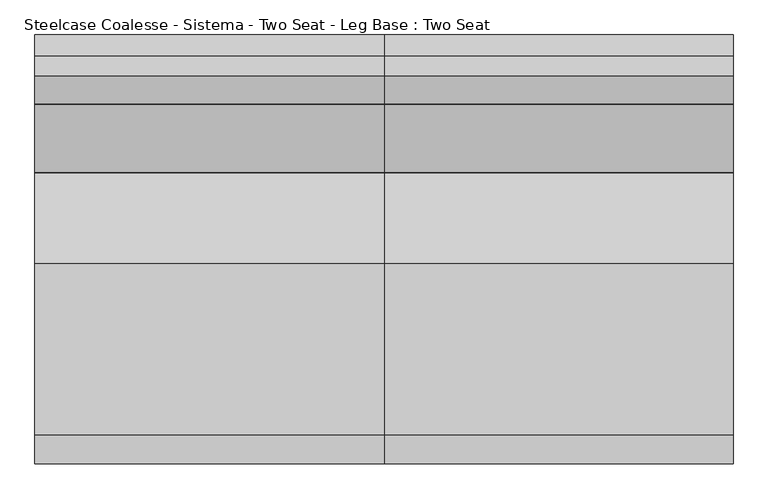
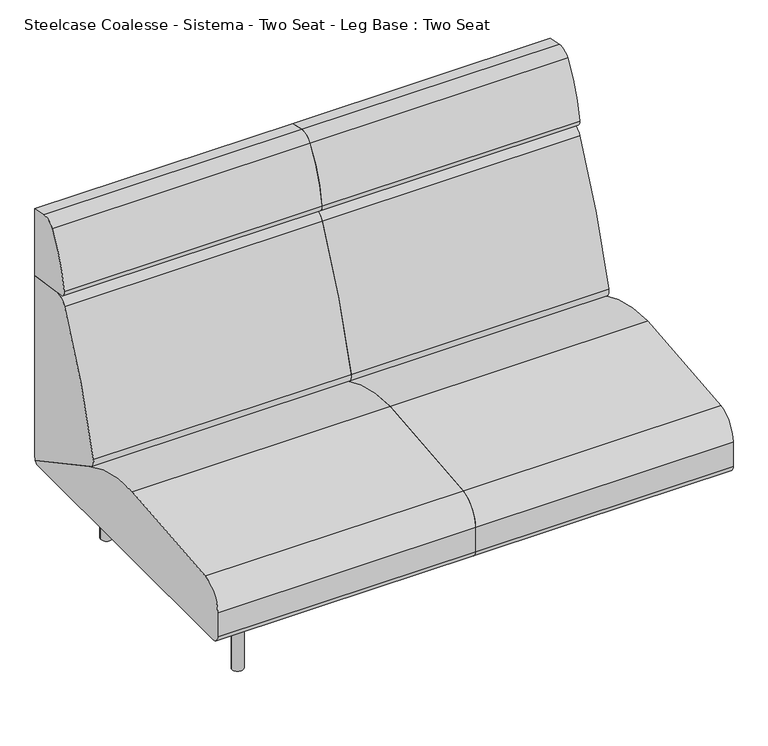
"""IFC4 building model written with IfcOpenShell, lengths in millimetres: furniture geometry, Steelcase Coalesse - Sistema - Two Seat - Leg Base : Two Seat."""

from ifc_helpers import new_model, si_unit, point, frame, frame_2d, origin, origin_with_axes, place, context, project, spatial, polyline, circle_curve, trimmed, segment, composite_curve, outline, extrude, source, transform, mapped, element, save


def steelcase_coalesse_sistema_two_seat_leg_base_two_seat_62bd9cc4(model_context):
    return source(origin(), model_context, "Body", "SweptSolid", [
        extrude(outline(composite_curve([segment(polyline([(459.4795619, 985.4592709), (459.4795619, 780.845009), (327.9700683, 799.327463)]), True, "CONTINUOUS"), segment(trimmed(circle_curve(frame_2d((330.6213159, 818.1920697)), 19.05), [point((327.9700683, 799.327463))], [point((311.7521971, 820.8110119))], False, "CARTESIAN"), True, "CONTINUOUS"), segment(trimmed(circle_curve(frame_2d((679.5815991, 769.7580741)), 371.3554516), [point((311.7521971, 820.8110119))], [point((372.1246101, 978.0249014))], False, "CARTESIAN"), True, "CONTINUOUS"), segment(trimmed(circle_curve(frame_2d((405.8944569, 955.1497055)), 40.7881985), [point((372.1246101, 978.0249014))], [point((414.3748002, 995.046584))], False, "CARTESIAN"), True, "CONTINUOUS"), segment(polyline([(414.3748002, 995.046584), (459.4795619, 985.4592709)]), True, "CONTINUOUS")], self_intersect=False)), frame((-374.8034773, 0.0, 0.0), z_axis=(1.0, 0.0, 0.0), x_axis=(0.0, 1.0, 0.0)), (0.0, 0.0, 1.0), 749.3),
        extrude(outline(composite_curve([segment(polyline([(459.4795619, 780.845009), (459.4795619, 228.1929806)]), True, "CONTINUOUS"), segment(trimmed(circle_curve(frame_2d((191.495971, 228.1929806)), 267.983591), [point((459.4795619, 228.1929806))], [point((458.9860775, 211.937276))], False, "CARTESIAN"), True, "CONTINUOUS"), segment(polyline([(458.9860775, 211.937276), (177.4990556, 364.1028799)]), True, "CONTINUOUS"), segment(trimmed(circle_curve(frame_2d((189.5778307, 386.4470781)), 25.4), [point((177.4990556, 364.1028799))], [point((164.9600055, 392.7018911))], False, "CARTESIAN"), True, "CONTINUOUS"), segment(trimmed(circle_curve(frame_2d((1918.112812, -52.7331923)), 1808.8552115), [point((164.9600055, 392.7018911))], [point((310.2880264, 776.0349508))], False, "CARTESIAN"), True, "CONTINUOUS"), segment(trimmed(circle_curve(frame_2d((344.1537133, 758.5785695)), 38.1), [point((310.2880264, 776.0349508))], [point((349.4562085, 796.3077829))], False, "CARTESIAN"), True, "CONTINUOUS"), segment(polyline([(349.4562085, 796.3077829), (459.4795619, 780.845009)]), True, "CONTINUOUS")], self_intersect=False)), frame((-374.8034773, 0.0, 0.0), z_axis=(1.0, 0.0, 0.0), x_axis=(0.0, 1.0, 0.0)), (0.0, 0.0, 1.0), 749.3),
        extrude(outline(composite_curve([segment(trimmed(circle_curve(frame_2d((-438.9184381, 226.822)), 22.352), [point((-438.9184381, 204.47))], [point((-461.2704381, 226.822))], False, "CARTESIAN"), True, "CONTINUOUS"), segment(polyline([(-461.2704381, 226.822), (-461.2704381, 301.4421993)]), True, "CONTINUOUS"), segment(trimmed(circle_curve(frame_2d((-385.0704381, 301.4421993)), 76.2), [point((-461.2704381, 301.4421993))], [point((-398.9277015, 376.3716077))], False, "CARTESIAN"), True, "CONTINUOUS"), segment(trimmed(circle_curve(frame_2d((2.2103559, -1792.6740646)), 2205.8265729), [point((-398.9277015, 376.3716077))], [point((-31.1968175, 412.8995185))], False, "CARTESIAN"), True, "CONTINUOUS"), segment(trimmed(circle_curve(frame_2d((-24.5128424, -28.3829182)), 441.333054), [point((-31.1968175, 412.8995185))], [point((184.5757008, 360.2774035))], False, "CARTESIAN"), True, "CONTINUOUS"), segment(polyline([(184.5757008, 360.2774035), (458.9860775, 211.937276)]), True, "CONTINUOUS"), segment(trimmed(circle_curve(frame_2d((442.3266309, 226.7871991)), 22.3171991), [point((458.9860775, 211.937276))], [point((442.3266309, 204.47))], False, "CARTESIAN"), True, "CONTINUOUS"), segment(polyline([(442.3266309, 204.47), (-438.9184381, 204.47)]), True, "CONTINUOUS")], self_intersect=False)), frame((-374.8034773, 0.0, 0.0), z_axis=(1.0, 0.0, 0.0), x_axis=(0.0, 1.0, 0.0)), (0.0, 0.0, 1.0), 749.3),
        extrude(outline(composite_curve([segment(polyline([(459.4795619, 985.4592709), (459.4795619, 780.845009), (327.9700683, 799.327463)]), True, "CONTINUOUS"), segment(trimmed(circle_curve(frame_2d((330.6213159, 818.1920697)), 19.05), [point((327.9700683, 799.327463))], [point((311.7521971, 820.8110119))], False, "CARTESIAN"), True, "CONTINUOUS"), segment(trimmed(circle_curve(frame_2d((679.5815991, 769.7580741)), 371.3554516), [point((311.7521971, 820.8110119))], [point((372.1246101, 978.0249014))], False, "CARTESIAN"), True, "CONTINUOUS"), segment(trimmed(circle_curve(frame_2d((405.8944569, 955.1497055)), 40.7881985), [point((372.1246101, 978.0249014))], [point((414.3748002, 995.046584))], False, "CARTESIAN"), True, "CONTINUOUS"), segment(polyline([(414.3748002, 995.046584), (459.4795619, 985.4592709)]), True, "CONTINUOUS")], self_intersect=False)), frame((374.4965227, 0.0, 0.0), z_axis=(1.0, 0.0, 0.0), x_axis=(0.0, 1.0, 0.0)), (0.0, 0.0, 1.0), 749.3),
        extrude(outline(composite_curve([segment(polyline([(459.4795619, 780.845009), (459.4795619, 228.1929806)]), True, "CONTINUOUS"), segment(trimmed(circle_curve(frame_2d((191.495971, 228.1929806)), 267.983591), [point((459.4795619, 228.1929806))], [point((458.9860775, 211.937276))], False, "CARTESIAN"), True, "CONTINUOUS"), segment(polyline([(458.9860775, 211.937276), (177.4990556, 364.1028799)]), True, "CONTINUOUS"), segment(trimmed(circle_curve(frame_2d((189.5778307, 386.4470781)), 25.4), [point((177.4990556, 364.1028799))], [point((164.9600055, 392.7018911))], False, "CARTESIAN"), True, "CONTINUOUS"), segment(trimmed(circle_curve(frame_2d((1918.112812, -52.7331923)), 1808.8552115), [point((164.9600055, 392.7018911))], [point((310.2880264, 776.0349508))], False, "CARTESIAN"), True, "CONTINUOUS"), segment(trimmed(circle_curve(frame_2d((344.1537133, 758.5785695)), 38.1), [point((310.2880264, 776.0349508))], [point((349.4562085, 796.3077829))], False, "CARTESIAN"), True, "CONTINUOUS"), segment(polyline([(349.4562085, 796.3077829), (459.4795619, 780.845009)]), True, "CONTINUOUS")], self_intersect=False)), frame((374.4965227, 0.0, 0.0), z_axis=(1.0, 0.0, 0.0), x_axis=(0.0, 1.0, 0.0)), (0.0, 0.0, 1.0), 749.3),
        extrude(outline(composite_curve([segment(trimmed(circle_curve(frame_2d((-438.9184381, 226.822)), 22.352), [point((-438.9184381, 204.47))], [point((-461.2704381, 226.822))], False, "CARTESIAN"), True, "CONTINUOUS"), segment(polyline([(-461.2704381, 226.822), (-461.2704381, 301.4421993)]), True, "CONTINUOUS"), segment(trimmed(circle_curve(frame_2d((-385.0704381, 301.4421993)), 76.2), [point((-461.2704381, 301.4421993))], [point((-398.9277015, 376.3716077))], False, "CARTESIAN"), True, "CONTINUOUS"), segment(trimmed(circle_curve(frame_2d((2.2103559, -1792.6740646)), 2205.8265729), [point((-398.9277015, 376.3716077))], [point((-31.1968175, 412.8995185))], False, "CARTESIAN"), True, "CONTINUOUS"), segment(trimmed(circle_curve(frame_2d((-24.5128424, -28.3829182)), 441.333054), [point((-31.1968175, 412.8995185))], [point((184.5757008, 360.2774035))], False, "CARTESIAN"), True, "CONTINUOUS"), segment(polyline([(184.5757008, 360.2774035), (458.9860775, 211.937276)]), True, "CONTINUOUS"), segment(trimmed(circle_curve(frame_2d((442.3266309, 226.7871991)), 22.3171991), [point((458.9860775, 211.937276))], [point((442.3266309, 204.47))], False, "CARTESIAN"), True, "CONTINUOUS"), segment(polyline([(442.3266309, 204.47), (-438.9184381, 204.47)]), True, "CONTINUOUS")], self_intersect=False)), frame((374.4965227, 0.0, 0.0), z_axis=(1.0, 0.0, 0.0), x_axis=(0.0, 1.0, 0.0)), (0.0, 0.0, 1.0), 749.3),
        extrude(outline(composite_curve([segment(trimmed(circle_curve(frame_2d((-240.1834773, 335.9943389)), 6.096), [point((-246.2794773, 335.9943389))], [point((-234.0874773, 335.9943389))], False, "CARTESIAN"), True, "CONTINUOUS"), segment(trimmed(circle_curve(frame_2d((-240.1834773, 335.9943389)), 6.096), [point((-234.0874773, 335.9943389))], [point((-246.2794773, 335.9943389))], False, "CARTESIAN"), True, "CONTINUOUS")], self_intersect=False)), origin_with_axes(), (0.0, 0.0, 1.0), 4.3662291),
        extrude(outline(composite_curve([segment(trimmed(circle_curve(frame_2d((-240.1834773, -327.2630889)), 6.096), [point((-246.2794773, -327.2630889))], [point((-234.0874773, -327.2630889))], False, "CARTESIAN"), True, "CONTINUOUS"), segment(trimmed(circle_curve(frame_2d((-240.1834773, -327.2630889)), 6.096), [point((-234.0874773, -327.2630889))], [point((-246.2794773, -327.2630889))], False, "CARTESIAN"), True, "CONTINUOUS")], self_intersect=False)), origin_with_axes(), (0.0, 0.0, 1.0), 4.3662291),
        extrude(outline(composite_curve([segment(trimmed(circle_curve(frame_2d((157.0399209, -249.7153296)), 3.048), [point((157.0399209, -252.7633296))], [point((153.9919209, -249.7153296))], False, "CARTESIAN"), True, "CONTINUOUS"), segment(polyline([(153.9919209, -249.7153296), (153.9919209, -230.4582264)]), True, "CONTINUOUS"), segment(trimmed(circle_curve(frame_2d((157.1249936, -230.4582264)), 3.1330728), [point((153.9919209, -230.4582264))], [point((157.1249936, -227.3251537))], False, "CARTESIAN"), True, "CONTINUOUS"), segment(polyline([(157.1249936, -227.3251537), (201.7356243, -227.3251537)]), True, "CONTINUOUS"), segment(trimmed(circle_curve(frame_2d((201.7356243, -230.3731537)), 3.048), [point((201.7356243, -227.3251537))], [point((204.7836243, -230.3731537))], False, "CARTESIAN"), True, "CONTINUOUS"), segment(polyline([(204.7836243, -230.3731537), (204.7836243, -249.7153296)]), True, "CONTINUOUS"), segment(trimmed(circle_curve(frame_2d((201.7356243, -249.7153296)), 3.048), [point((204.7836243, -249.7153296))], [point((201.7356243, -252.7633296))], False, "CARTESIAN"), True, "CONTINUOUS"), segment(polyline([(201.7356243, -252.7633296), (157.0399209, -252.7633296)]), True, "CONTINUOUS")], self_intersect=False)), frame((0.0, 222.3519802, 0.0), z_axis=(0.0, 1.0, 0.0), x_axis=(0.0, 0.0, 1.0)), (0.0, 0.0, 1.0), 92.6273161),
        extrude(outline(composite_curve([segment(trimmed(circle_curve(frame_2d((157.0399209, -249.7153296)), 3.048), [point((157.0399209, -252.7633296))], [point((153.9919209, -249.7153296))], False, "CARTESIAN"), True, "CONTINUOUS"), segment(polyline([(153.9919209, -249.7153296), (153.9919209, -230.4582264)]), True, "CONTINUOUS"), segment(trimmed(circle_curve(frame_2d((157.1249936, -230.4582264)), 3.1330728), [point((153.9919209, -230.4582264))], [point((157.1249936, -227.3251537))], False, "CARTESIAN"), True, "CONTINUOUS"), segment(polyline([(157.1249936, -227.3251537), (201.7356243, -227.3251537)]), True, "CONTINUOUS"), segment(trimmed(circle_curve(frame_2d((201.7356243, -230.3731537)), 3.048), [point((201.7356243, -227.3251537))], [point((204.7836243, -230.3731537))], False, "CARTESIAN"), True, "CONTINUOUS"), segment(polyline([(204.7836243, -230.3731537), (204.7836243, -249.7153296)]), True, "CONTINUOUS"), segment(trimmed(circle_curve(frame_2d((201.7356243, -249.7153296)), 3.048), [point((204.7836243, -249.7153296))], [point((201.7356243, -252.7633296))], False, "CARTESIAN"), True, "CONTINUOUS"), segment(polyline([(201.7356243, -252.7633296), (157.0399209, -252.7633296)]), True, "CONTINUOUS")], self_intersect=False)), frame((0.0, -314.9792963, 0.0), z_axis=(0.0, 1.0, 0.0), x_axis=(0.0, 0.0, 1.0)), (0.0, 0.0, 1.0), 92.6273161),
        extrude(outline(composite_curve([segment(polyline([(179.3836606, -217.532949), (179.3836606, -262.2370459)]), True, "CONTINUOUS"), segment(trimmed(circle_curve(frame_2d((176.3356606, -262.2370459)), 3.048), [point((179.3836606, -262.2370459))], [point((176.3356606, -265.2850459))], False, "CARTESIAN"), True, "CONTINUOUS"), segment(polyline([(176.3356606, -265.2850459), (157.056462, -265.2850459)]), True, "CONTINUOUS"), segment(trimmed(circle_curve(frame_2d((157.056462, -262.2205047)), 3.0645412), [point((157.056462, -265.2850459))], [point((153.9919209, -262.2205047))], False, "CARTESIAN"), True, "CONTINUOUS"), segment(polyline([(153.9919209, -262.2205047), (153.9919209, -217.532949)]), True, "CONTINUOUS"), segment(trimmed(circle_curve(frame_2d((157.0399209, -217.532949)), 3.048), [point((153.9919209, -217.532949))], [point((157.0399209, -214.484949))], False, "CARTESIAN"), True, "CONTINUOUS"), segment(polyline([(157.0399209, -214.484949), (176.3356606, -214.484949)]), True, "CONTINUOUS"), segment(trimmed(circle_curve(frame_2d((176.3356606, -217.532949)), 3.048), [point((176.3356606, -214.484949))], [point((179.3836606, -217.532949))], False, "CARTESIAN"), True, "CONTINUOUS")], self_intersect=False)), frame((0.0, -222.3519802, 0.0), z_axis=(0.0, 1.0, 0.0), x_axis=(0.0, 0.0, 1.0)), (0.0, 0.0, 1.0), 444.7039604),
        extrude(outline(composite_curve([segment(trimmed(circle_curve(frame_2d((-240.1834773, 332.3095741)), 16.51), [point((-256.6934773, 332.3095741))], [point((-223.6734773, 332.3095741))], False, "CARTESIAN"), True, "CONTINUOUS"), segment(trimmed(circle_curve(frame_2d((-240.1834773, 332.3095741)), 16.51), [point((-223.6734773, 332.3095741))], [point((-256.6934773, 332.3095741))], False, "CARTESIAN"), True, "CONTINUOUS")], self_intersect=False)), frame((0.0, 0.0, 4.3662291), z_axis=(0.0, 0.0, 1.0), x_axis=(1.0, 0.0, 0.0)), (0.0, 0.0, 1.0), 200.1037709),
        extrude(outline(composite_curve([segment(trimmed(circle_curve(frame_2d((-239.7866023, -327.5470741)), 16.51), [point((-256.2966023, -327.5470741))], [point((-223.2766023, -327.5470741))], False, "CARTESIAN"), True, "CONTINUOUS"), segment(trimmed(circle_curve(frame_2d((-239.7866023, -327.5470741)), 16.51), [point((-223.2766023, -327.5470741))], [point((-256.2966023, -327.5470741))], False, "CARTESIAN"), True, "CONTINUOUS")], self_intersect=False)), frame((0.0, 0.0, 4.3662291), z_axis=(0.0, 0.0, 1.0), x_axis=(1.0, 0.0, 0.0)), (0.0, 0.0, 1.0), 200.1037709),
    ])


if __name__ == "__main__":
    model = new_model("IFC4")
    model_context = context("Model", 3, world=origin())
    ifc_project = project(units=[si_unit("LENGTHUNIT", "METRE", prefix="MILLI")], contexts=[model_context])
    site = spatial("IfcSite", under=ifc_project)
    building = spatial("IfcBuilding", under=site)
    placement = place(None, origin())
    steelcase_coalesse_sistema_two_seat_leg_base_two_seat_shape = steelcase_coalesse_sistema_two_seat_leg_base_two_seat_62bd9cc4(model_context)
    element("IfcFurniture", 1, ObjectType="Steelcase Coalesse - Sistema - Two Seat - Leg Base : Two Seat", at=placement, inside=building, context=model_context, shape_type="MappedRepresentation", body=[
        mapped(steelcase_coalesse_sistema_two_seat_leg_base_two_seat_shape, transform((0.0, 0.0, 0.0), x_axis=(1.0, 0.0, 0.0), y_axis=(0.0, 1.0, 0.0), z_axis=(0.0, 0.0, 1.0))),
    ])
    save(model, "model.ifc")
